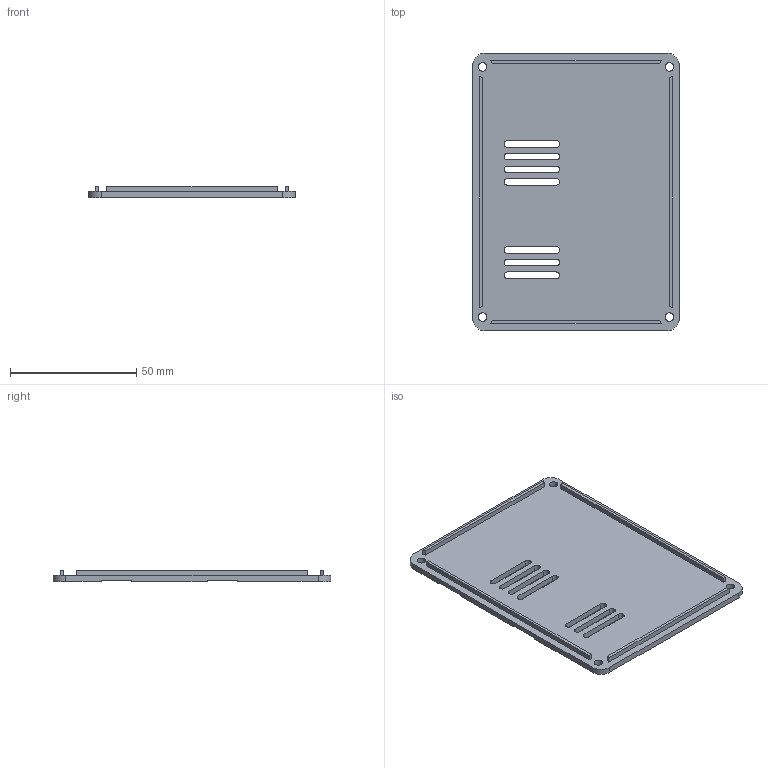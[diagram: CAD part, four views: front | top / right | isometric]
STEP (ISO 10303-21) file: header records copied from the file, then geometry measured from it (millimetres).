
FILE_DESCRIPTION(('Open CASCADE Model'),'2;1');
FILE_NAME('Open CASCADE Shape Model','2026-09-07T22:19:20',('Author'),( 'Open CASCADE'),'Open CASCADE STEP processor 7.9','build123d', 'Unknown');
FILE_SCHEMA(('AUTOMOTIVE_DESIGN { 1 0 10303 214 1 1 1 1 }'));
Length unit declared in the file: millimetre
Products named in the file (2): =>[0:1:1:2]; COMPOUND
Assembly tree (1 placements, depth 2):
  =>[0:1:1:2]
    COMPOUND
Bounding box: 82 x 110 x 4.4 mm (x, y, z)
Volume: 20148.9 mm3; surface area: 20391.3 mm2
Topology: 1 solids, 1 shells, 98 faces, 276 edges, 184 vertices
Faces by surface type: plane 54, cylinder 44
Full cylindrical faces by diameter (mm): 3.4 x4
Entity records: 6852 total; most frequent: CARTESIAN_POINT 1684, DIRECTION 864, ORIENTED_EDGE 552, PCURVE 552, DEFINITIONAL_REPRESENTATION 552, LINE 464, VECTOR 464, EDGE_CURVE 276
